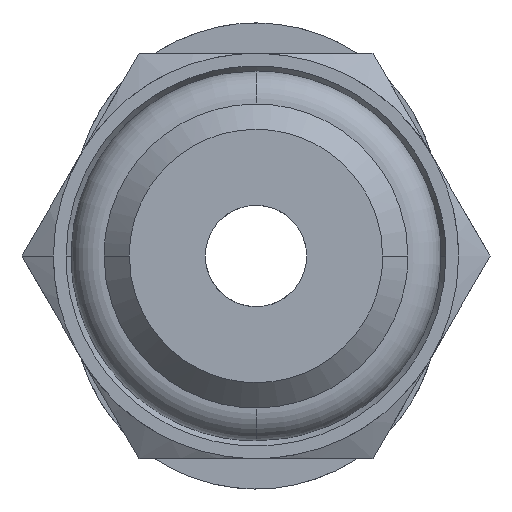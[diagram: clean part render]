
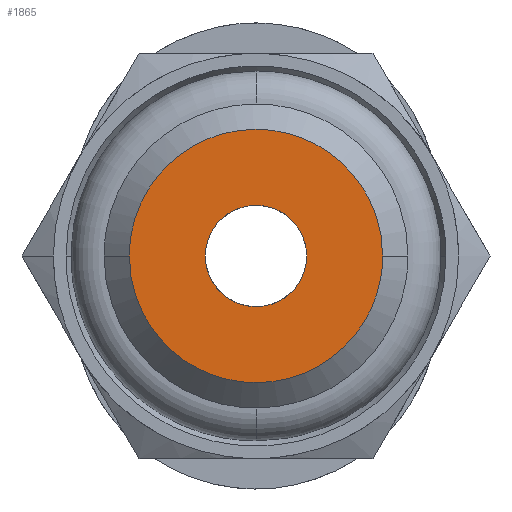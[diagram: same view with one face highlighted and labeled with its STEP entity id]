
A CAD part, front view. The second image highlights one B-rep face of the part: STEP entity #1865.
In plain terms, the highlighted planar face has unit normal (0, -1, 0).
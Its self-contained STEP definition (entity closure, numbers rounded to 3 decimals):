
#22 = CARTESIAN_POINT ( 'NONE',  ( 2.002, 0., 1.534 ) ) ;
#43 = CARTESIAN_POINT ( 'NONE',  ( -0.873, 0., -0.505 ) ) ;
#47 = CARTESIAN_POINT ( 'NONE',  ( 2.5, 0., 0. ) ) ;
#90 = CARTESIAN_POINT ( 'NONE',  ( 0.331, 0., 2.5 ) ) ;
#119 = CARTESIAN_POINT ( 'NONE',  ( -2.183, 0., -1.263 ) ) ;
#187 = CARTESIAN_POINT ( 'NONE',  ( 2.002, 0., -1.534 ) ) ;
#257 = CARTESIAN_POINT ( 'NONE',  ( -0.974, 0., 0.26 ) ) ;
#278 = CARTESIAN_POINT ( 'NONE',  ( -0.614, 0., 0.801 ) ) ;
#295 = CARTESIAN_POINT ( 'NONE',  ( 0.26, 0., 0.974 ) ) ;
#342 = CARTESIAN_POINT ( 'NONE',  ( 1., 0., 0.132 ) ) ;
#360 = CARTESIAN_POINT ( 'NONE',  ( -0.132, 0., -1. ) ) ;
#386 = VERTEX_POINT ( 'NONE', #2244 ) ;
#515 = EDGE_CURVE ( 'NONE', #3071, #1965, #2657, .T. ) ;
#636 = CARTESIAN_POINT ( 'NONE',  ( -0.505, 0., 0.873 ) ) ;
#727 = CARTESIAN_POINT ( 'NONE',  ( -0.505, 0., -0.873 ) ) ;
#754 = CARTESIAN_POINT ( 'NONE',  ( -2.5, 0., 0. ) ) ;
#773 = CARTESIAN_POINT ( 'NONE',  ( 0.505, 0., -0.873 ) ) ;
#847 = CARTESIAN_POINT ( 'NONE',  ( -2.5, 0., 0. ) ) ;
#919 = CARTESIAN_POINT ( 'NONE',  ( -2.436, 0., -0.651 ) ) ;
#923 = ORIENTED_EDGE ( 'NONE', *, *, #1787, .T. ) ;
#1117 = CARTESIAN_POINT ( 'NONE',  ( 0.614, 0., -0.801 ) ) ;
#1222 = EDGE_CURVE ( 'NONE', #1965, #3071, #3684, .T. ) ;
#1251 = CARTESIAN_POINT ( 'NONE',  ( 2.5, 0., 0. ) ) ;
#1279 = CARTESIAN_POINT ( 'NONE',  ( -1., 0., 0.132 ) ) ;
#1334 = CARTESIAN_POINT ( 'NONE',  ( 0.873, 0., 0.505 ) ) ;
#1354 = CARTESIAN_POINT ( 'NONE',  ( -1., 0., -0.133 ) ) ;
#1434 = CARTESIAN_POINT ( 'NONE',  ( 2.5, 0., 0.331 ) ) ;
#1457 = CARTESIAN_POINT ( 'NONE',  ( -0.651, 0., 2.436 ) ) ;
#1548 = CARTESIAN_POINT ( 'NONE',  ( -2.5, 0., -0.331 ) ) ;
#1616 = CARTESIAN_POINT ( 'NONE',  ( 2.183, 0., -1.263 ) ) ;
#1677 = CARTESIAN_POINT ( 'NONE',  ( 0.505, 0., 0.873 ) ) ;
#1689 = ORIENTED_EDGE ( 'NONE', *, *, #1222, .T. ) ;
#1742 = CARTESIAN_POINT ( 'NONE',  ( -0.975, 0., -0.26 ) ) ;
#1787 = EDGE_CURVE ( 'NONE', #4002, #386, #4427, .T. ) ;
#1841 = FACE_OUTER_BOUND ( 'NONE', #2310, .T. ) ;
#1865 = ADVANCED_FACE ( 'NONE', ( #2263, #1841 ), #3294, .T. ) ;
#1956 = CARTESIAN_POINT ( 'NONE',  ( 2.436, 0., -0.651 ) ) ;
#1965 = VERTEX_POINT ( 'NONE', #2192 ) ;
#2016 = CARTESIAN_POINT ( 'NONE',  ( -0.261, 0., 0.975 ) ) ;
#2054 = CARTESIAN_POINT ( 'NONE',  ( 1., 0., -0.132 ) ) ;
#2078 = CARTESIAN_POINT ( 'NONE',  ( 1., 0., 0. ) ) ;
#2099 = CARTESIAN_POINT ( 'NONE',  ( -0.801, 0., -0.614 ) ) ;
#2127 = CARTESIAN_POINT ( 'NONE',  ( -2.437, 0., 0.651 ) ) ;
#2170 = CARTESIAN_POINT ( 'NONE',  ( 0.651, 0., 2.436 ) ) ;
#2192 = CARTESIAN_POINT ( 'NONE',  ( 1., 0., 0. ) ) ;
#2219 = CARTESIAN_POINT ( 'NONE',  ( -1.25, 0., 0. ) ) ;
#2238 = DIRECTION ( 'NONE',  ( 0., -1., 0. ) ) ;
#2243 = CARTESIAN_POINT ( 'NONE',  ( 1.263, 0., -2.183 ) ) ;
#2244 = CARTESIAN_POINT ( 'NONE',  ( -2.5, 0., 0. ) ) ;
#2263 = FACE_BOUND ( 'NONE', #2923, .T. ) ;
#2310 = EDGE_LOOP ( 'NONE', ( #3970, #923 ) ) ;
#2341 = B_SPLINE_CURVE_WITH_KNOTS ( 'NONE', 3,
 ( #847, #1548, #919, #119, #2601, #4265, #2554, #3929, #3594, #2910, #4287, #2243, #3276, #187, #1616, #1956, #3322, #2981 ),
 .UNSPECIFIED., .F., .F.,
 ( 4, 2, 2, 2, 2, 2, 2, 2, 4 ),
 ( 0., 0.062, 0.125, 0.187, 0.25, 0.312, 0.375, 0.437, 0.5 ),
 .UNSPECIFIED. ) ;
#2367 = CARTESIAN_POINT ( 'NONE',  ( 0.975, 0., 0.261 ) ) ;
#2416 = CARTESIAN_POINT ( 'NONE',  ( -1.263, 0., 2.183 ) ) ;
#2506 = CARTESIAN_POINT ( 'NONE',  ( -2.002, 0., 1.534 ) ) ;
#2554 = CARTESIAN_POINT ( 'NONE',  ( -1.263, 0., -2.183 ) ) ;
#2601 = CARTESIAN_POINT ( 'NONE',  ( -2.002, 0., -1.534 ) ) ;
#2652 = CARTESIAN_POINT ( 'NONE',  ( -1., 0., 0. ) ) ;
#2657 = B_SPLINE_CURVE_WITH_KNOTS ( 'NONE', 3,
 ( #3365, #1279, #257, #4019, #3697, #278, #636, #2016, #4076, #3384, #295, #1677, #3042, #4413, #1334, #2367, #342, #2078 ),
 .UNSPECIFIED., .F., .F.,
 ( 4, 2, 2, 2, 2, 2, 2, 2, 4 ),
 ( 0., 0.062, 0.125, 0.188, 0.25, 0.313, 0.375, 0.438, 0.5 ),
 .UNSPECIFIED. ) ;
#2724 = CARTESIAN_POINT ( 'NONE',  ( 0.132, 0., -1. ) ) ;
#2787 = EDGE_CURVE ( 'NONE', #386, #4002, #2341, .T. ) ;
#2793 = CARTESIAN_POINT ( 'NONE',  ( 0.801, 0., -0.614 ) ) ;
#2797 = CARTESIAN_POINT ( 'NONE',  ( 2.436, 0., 0.651 ) ) ;
#2910 = CARTESIAN_POINT ( 'NONE',  ( 0.331, 0., -2.5 ) ) ;
#2923 = EDGE_LOOP ( 'NONE', ( #3827, #1689 ) ) ;
#2981 = CARTESIAN_POINT ( 'NONE',  ( 2.5, 0., 0. ) ) ;
#3042 = CARTESIAN_POINT ( 'NONE',  ( 0.614, 0., 0.801 ) ) ;
#3061 = CARTESIAN_POINT ( 'NONE',  ( 0.261, 0., -0.975 ) ) ;
#3071 = VERTEX_POINT ( 'NONE', #2652 ) ;
#3085 = CARTESIAN_POINT ( 'NONE',  ( 1.534, 0., 2.002 ) ) ;
#3128 = CARTESIAN_POINT ( 'NONE',  ( 0.873, 0., -0.505 ) ) ;
#3276 = CARTESIAN_POINT ( 'NONE',  ( 1.534, 0., -2.002 ) ) ;
#3294 = PLANE ( 'NONE',  #3364 ) ;
#3322 = CARTESIAN_POINT ( 'NONE',  ( 2.5, 0., -0.331 ) ) ;
#3364 = AXIS2_PLACEMENT_3D ( 'NONE', #2219, #2238, #3902 ) ;
#3365 = CARTESIAN_POINT ( 'NONE',  ( -1., 0., 0. ) ) ;
#3384 = CARTESIAN_POINT ( 'NONE',  ( 0.132, 0., 1. ) ) ;
#3425 = CARTESIAN_POINT ( 'NONE',  ( -1., 0., 0. ) ) ;
#3448 = CARTESIAN_POINT ( 'NONE',  ( 0.974, 0., -0.26 ) ) ;
#3452 = CARTESIAN_POINT ( 'NONE',  ( -0.331, 0., 2.5 ) ) ;
#3502 = CARTESIAN_POINT ( 'NONE',  ( -2.5, 0., 0.332 ) ) ;
#3523 = CARTESIAN_POINT ( 'NONE',  ( 2.183, 0., 1.263 ) ) ;
#3594 = CARTESIAN_POINT ( 'NONE',  ( -0.331, 0., -2.5 ) ) ;
#3684 = B_SPLINE_CURVE_WITH_KNOTS ( 'NONE', 3,
 ( #4141, #2054, #3448, #3128, #2793, #1117, #773, #3061, #2724, #360, #4431, #727, #4093, #2099, #43, #1742, #1354, #3425 ),
 .UNSPECIFIED., .F., .F.,
 ( 4, 2, 2, 2, 2, 2, 2, 2, 4 ),
 ( 0.5, 0.563, 0.625, 0.688, 0.75, 0.813, 0.875, 0.938, 1. ),
 .UNSPECIFIED. ) ;
#3697 = CARTESIAN_POINT ( 'NONE',  ( -0.801, 0., 0.614 ) ) ;
#3827 = ORIENTED_EDGE ( 'NONE', *, *, #515, .T. ) ;
#3902 = DIRECTION ( 'NONE',  ( 0., 0., -1. ) ) ;
#3929 = CARTESIAN_POINT ( 'NONE',  ( -0.651, 0., -2.436 ) ) ;
#3970 = ORIENTED_EDGE ( 'NONE', *, *, #2787, .T. ) ;
#4002 = VERTEX_POINT ( 'NONE', #1251 ) ;
#4019 = CARTESIAN_POINT ( 'NONE',  ( -0.873, 0., 0.505 ) ) ;
#4076 = CARTESIAN_POINT ( 'NONE',  ( -0.132, 0., 1. ) ) ;
#4093 = CARTESIAN_POINT ( 'NONE',  ( -0.614, 0., -0.801 ) ) ;
#4141 = CARTESIAN_POINT ( 'NONE',  ( 1., 0., 0. ) ) ;
#4145 = CARTESIAN_POINT ( 'NONE',  ( -1.534, 0., 2.002 ) ) ;
#4166 = CARTESIAN_POINT ( 'NONE',  ( 1.263, 0., 2.183 ) ) ;
#4265 = CARTESIAN_POINT ( 'NONE',  ( -1.534, 0., -2.002 ) ) ;
#4287 = CARTESIAN_POINT ( 'NONE',  ( 0.651, 0., -2.436 ) ) ;
#4413 = CARTESIAN_POINT ( 'NONE',  ( 0.801, 0., 0.614 ) ) ;
#4427 = B_SPLINE_CURVE_WITH_KNOTS ( 'NONE', 3,
 ( #47, #1434, #2797, #3523, #22, #3085, #4166, #2170, #90, #3452, #1457, #2416, #4145, #2506, #4456, #2127, #3502, #754 ),
 .UNSPECIFIED., .F., .F.,
 ( 4, 2, 2, 2, 2, 2, 2, 2, 4 ),
 ( 0.5, 0.563, 0.625, 0.688, 0.75, 0.813, 0.875, 0.938, 1. ),
 .UNSPECIFIED. ) ;
#4431 = CARTESIAN_POINT ( 'NONE',  ( -0.26, 0., -0.974 ) ) ;
#4456 = CARTESIAN_POINT ( 'NONE',  ( -2.183, 0., 1.263 ) ) ;
